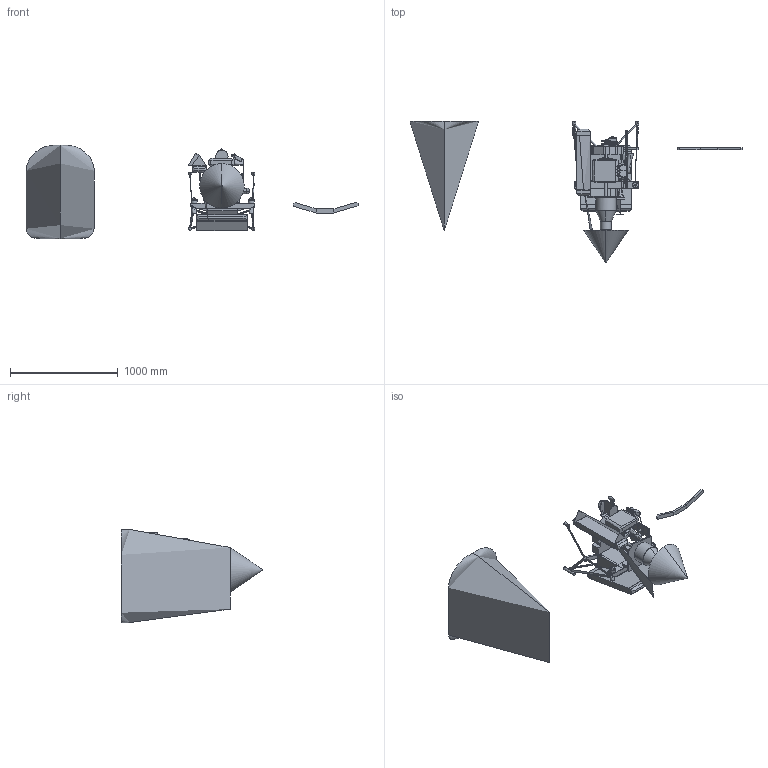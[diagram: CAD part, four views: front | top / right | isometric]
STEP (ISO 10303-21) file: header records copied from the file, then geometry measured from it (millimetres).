
FILE_DESCRIPTION(/* description */ (''),/* implementation_level */ '2;1');
FILE_NAME(/* name */ 'cub1',/* time_stamp */ '2008-12-07T15:15:13-08:00',/* author */ (''),/* organization */ (''),/* preprocessor_version */ 'ST-DEVELOPER v8',/* originating_system */ '',/* authorisation */ '');
FILE_SCHEMA (('CONFIG_CONTROL_DESIGN'));
Length unit declared in the file: inch
Products named in the file (1): 1
Bounding box: 3077.8 x 1314.29 x 864.09 mm (x, y, z)
Volume: 69284772.5 mm3; surface area: 7735730.7 mm2
Topology: 52 solids, 89 shells, 1124 faces, 2686 edges, 1689 vertices
Faces by surface type: bspline 1124
Entity records: 44182 total; most frequent: CARTESIAN_POINT 28801, ORIENTED_EDGE 5096, EDGE_CURVE 2620, VERTEX_POINT 1693, B_SPLINE_CURVE_WITH_KNOTS 1423, EDGE_LOOP 1349, ADVANCED_FACE 1124, FACE_OUTER_BOUND 1124
